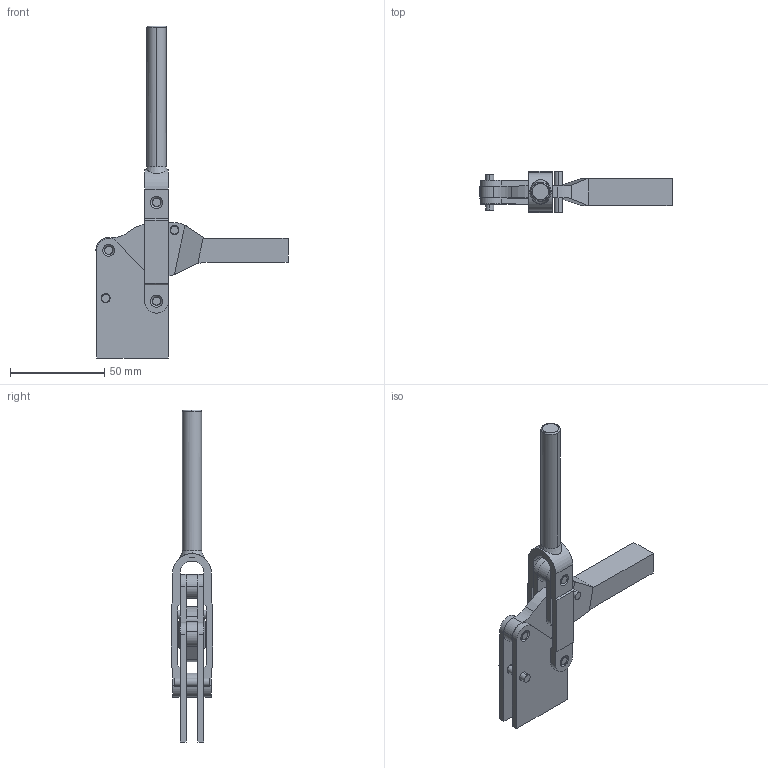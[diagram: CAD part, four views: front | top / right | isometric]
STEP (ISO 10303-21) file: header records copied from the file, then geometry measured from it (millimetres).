
FILE_DESCRIPTION( ( '' ), '1' );
FILE_NAME( 'C:\Documents and Settings\Richard Grenzke\My Documents\Wolverine Company Data\WOLVERINE CD 5_17_05\SOLIDS STEP\hold_down\cq905s.stp', ' ', ( '' ), ( '' ), 'ACIS Interop R16', 'Kubotek KeyCreator V5.5.1 (0454)', ' ' );
FILE_SCHEMA( ( 'CONFIG_CONTROL_DESIGN' ) );
Length unit declared in the file: millimetre
Products named in the file (177): 1; 2; 3; 4; 5; 6; 7; 8; 9; 10; 11; 12; 13; 14; 15; 16; 17; 18; 19; 20; 21; 22; 23; 24; 25; 26; 27; 28; 29; 30; 31; 32; 33; 34; 35; 36; 37; 38; 39; 40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
Bounding box: 101.93 x 22.23 x 176.2 mm (x, y, z)
Volume: 1608.8 mm3; surface area: 27815.1 mm2
Topology: 2 solids, 177 shells, 183 faces, 856 edges, 852 vertices
Faces by surface type: cylinder 77, plane 74, cone 22, bspline 4, sphere 4, revolution 2
Entity records: 17592 total; most frequent: CARTESIAN_POINT 2532, DIRECTION 1884, CC_DESIGN_PERSON_AND_ORGANIZATION_ASSIGNMENT 885, ORIENTED_EDGE 868, EDGE_CURVE 856, VERTEX_POINT 852, PERSON_AND_ORGANIZATION_ROLE 708, AXIS2_PLACEMENT_3D 708
